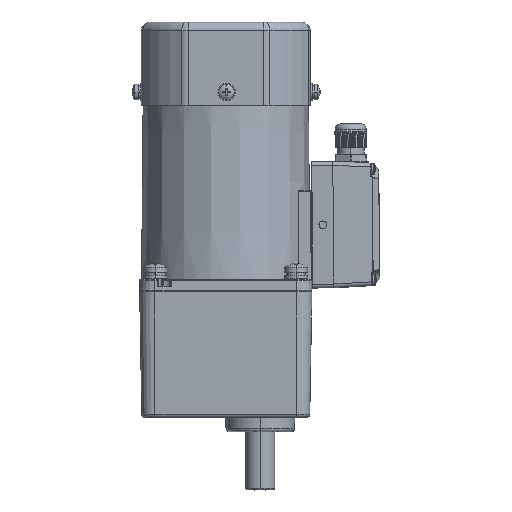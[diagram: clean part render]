
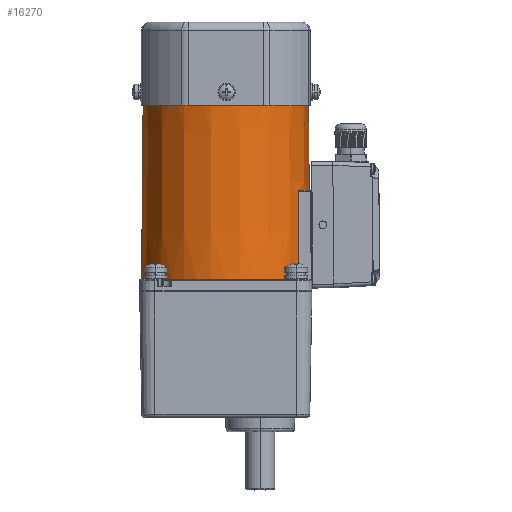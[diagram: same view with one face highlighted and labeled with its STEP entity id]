
A CAD part, front view. The second image highlights one B-rep face of the part: STEP entity #16270.
In plain terms, the highlighted conical face has half-angle 0.5 degrees and reference radius 43.555 mm.
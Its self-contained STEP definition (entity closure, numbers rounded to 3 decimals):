
#158 = FACE_OUTER_BOUND ( 'NONE', #2909, .T. ) ;
#364 = CARTESIAN_POINT ( 'NONE',  ( 37.886, -21.569, 53.35 ) ) ;
#607 = VERTEX_POINT ( 'NONE', #45156 ) ;
#1785 = VERTEX_POINT ( 'NONE', #4676 ) ;
#2909 = EDGE_LOOP ( 'NONE', ( #19554, #16804, #33931, #24726, #42709, #26227, #10266 ) ) ;
#4676 = CARTESIAN_POINT ( 'NONE',  ( -44., 0., 7. ) ) ;
#5446 = VERTEX_POINT ( 'NONE', #39292 ) ;
#6138 = CIRCLE ( 'NONE', #36256, 43.594 ) ;
#6931 = CARTESIAN_POINT ( 'NONE',  ( 37.95, -21.731, 37.802 ) ) ;
#6941 = CARTESIAN_POINT ( 'NONE',  ( 0., 0., 7. ) ) ;
#8619 = LINE ( 'NONE', #25055, #30980 ) ;
#9157 = DIRECTION ( 'NONE',  ( -1., 0., 0. ) ) ;
#10266 = ORIENTED_EDGE ( 'NONE', *, *, #41399, .T. ) ;
#13091 = CARTESIAN_POINT ( 'NONE',  ( 43.11, 0., 109. ) ) ;
#13828 = DIRECTION ( 'NONE',  ( 0., 0., 1. ) ) ;
#14743 = B_SPLINE_CURVE_WITH_KNOTS ( 'NONE', 3,
 ( #26689, #43144, #6931, #23382 ),
 .UNSPECIFIED., .F., .F.,
 ( 4, 4 ),
 ( 0., 1. ),
 .UNSPECIFIED. ) ;
#15347 = CONICAL_SURFACE ( 'NONE', #45501, 43.555, 0.009 ) ;
#16270 = ADVANCED_FACE ( 'NONE', ( #158 ), #15347, .T. ) ;
#16624 = CARTESIAN_POINT ( 'NONE',  ( 0., 0., 58. ) ) ;
#16793 = VERTEX_POINT ( 'NONE', #32983 ) ;
#16804 = ORIENTED_EDGE ( 'NONE', *, *, #39924, .F. ) ;
#16824 = CARTESIAN_POINT ( 'NONE',  ( 37.948, -21.457, 53.466 ) ) ;
#18555 = CARTESIAN_POINT ( 'NONE',  ( 37.872, -21.597, 53.203 ) ) ;
#18880 = EDGE_CURVE ( 'NONE', #47090, #26711, #19904, .T. ) ;
#19070 = CIRCLE ( 'NONE', #49235, 44. ) ;
#19554 = ORIENTED_EDGE ( 'NONE', *, *, #18880, .F. ) ;
#19904 = LINE ( 'NONE', #36334, #38809 ) ;
#20873 = CARTESIAN_POINT ( 'NONE',  ( 37.872, -21.597, 53.203 ) ) ;
#22511 = AXIS2_PLACEMENT_3D ( 'NONE', #29648, #46102, #9157 ) ;
#23382 = CARTESIAN_POINT ( 'NONE',  ( 37.872, -21.597, 53.203 ) ) ;
#23389 = DIRECTION ( 'NONE',  ( 0., 0., 1. ) ) ;
#24726 = ORIENTED_EDGE ( 'NONE', *, *, #40163, .T. ) ;
#25055 = CARTESIAN_POINT ( 'NONE',  ( -43.11, 0., 109. ) ) ;
#25600 = EDGE_CURVE ( 'NONE', #16793, #43535, #14743, .T. ) ;
#26227 = ORIENTED_EDGE ( 'NONE', *, *, #53004, .T. ) ;
#26689 = CARTESIAN_POINT ( 'NONE',  ( 38.105, -22., 7. ) ) ;
#26711 = VERTEX_POINT ( 'NONE', #50736 ) ;
#27048 = EDGE_CURVE ( 'NONE', #607, #1785, #8619, .T. ) ;
#29648 = CARTESIAN_POINT ( 'NONE',  ( 0., 0., 109. ) ) ;
#30281 = DIRECTION ( 'NONE',  ( 0.873, -0.489, 0. ) ) ;
#30980 = VECTOR ( 'NONE', #41503, 1000. ) ;
#32983 = CARTESIAN_POINT ( 'NONE',  ( 38.105, -22., 7. ) ) ;
#33048 = DIRECTION ( 'NONE',  ( 0., 0., -1. ) ) ;
#33250 = CARTESIAN_POINT ( 'NONE',  ( 37.992, -21.38, 53.5 ) ) ;
#33931 = ORIENTED_EDGE ( 'NONE', *, *, #27048, .T. ) ;
#36256 = AXIS2_PLACEMENT_3D ( 'NONE', #50780, #13828, #30281 ) ;
#36334 = CARTESIAN_POINT ( 'NONE',  ( 43.11, 0., 109. ) ) ;
#37303 = CARTESIAN_POINT ( 'NONE',  ( 37.871, -21.596, 53.279 ) ) ;
#38809 = VECTOR ( 'NONE', #52814, 1000. ) ;
#39292 = CARTESIAN_POINT ( 'NONE',  ( 38.038, -21.297, 53.5 ) ) ;
#39827 = DIRECTION ( 'NONE',  ( -1., 0., 0. ) ) ;
#39924 = EDGE_CURVE ( 'NONE', #607, #47090, #45771, .T. ) ;
#40163 = EDGE_CURVE ( 'NONE', #1785, #16793, #19070, .T. ) ;
#41399 = EDGE_CURVE ( 'NONE', #5446, #26711, #6138, .T. ) ;
#41503 = DIRECTION ( 'NONE',  ( -0.009, 0., -1. ) ) ;
#42709 = ORIENTED_EDGE ( 'NONE', *, *, #25600, .T. ) ;
#43144 = CARTESIAN_POINT ( 'NONE',  ( 38.028, -21.866, 22.401 ) ) ;
#43535 = VERTEX_POINT ( 'NONE', #18555 ) ;
#45156 = CARTESIAN_POINT ( 'NONE',  ( -43.11, 0., 109. ) ) ;
#45501 = AXIS2_PLACEMENT_3D ( 'NONE', #16624, #33048, #49527 ) ;
#45771 = CIRCLE ( 'NONE', #22511, 43.11 ) ;
#46102 = DIRECTION ( 'NONE',  ( 0., 0., 1. ) ) ;
#47090 = VERTEX_POINT ( 'NONE', #13091 ) ;
#47834 = B_SPLINE_CURVE_WITH_KNOTS ( 'NONE', 3,
 ( #20873, #37303, #364, #16824, #33250, #49723 ),
 .UNSPECIFIED., .F., .F.,
 ( 4, 2, 4 ),
 ( 0., 0.5, 1. ),
 .UNSPECIFIED. ) ;
#49235 = AXIS2_PLACEMENT_3D ( 'NONE', #6941, #23389, #39827 ) ;
#49527 = DIRECTION ( 'NONE',  ( 1., 0., 0. ) ) ;
#49723 = CARTESIAN_POINT ( 'NONE',  ( 38.038, -21.297, 53.5 ) ) ;
#50736 = CARTESIAN_POINT ( 'NONE',  ( 43.594, 0., 53.5 ) ) ;
#50780 = CARTESIAN_POINT ( 'NONE',  ( 0., 0., 53.5 ) ) ;
#52814 = DIRECTION ( 'NONE',  ( 0.009, 0., -1. ) ) ;
#53004 = EDGE_CURVE ( 'NONE', #43535, #5446, #47834, .T. ) ;
